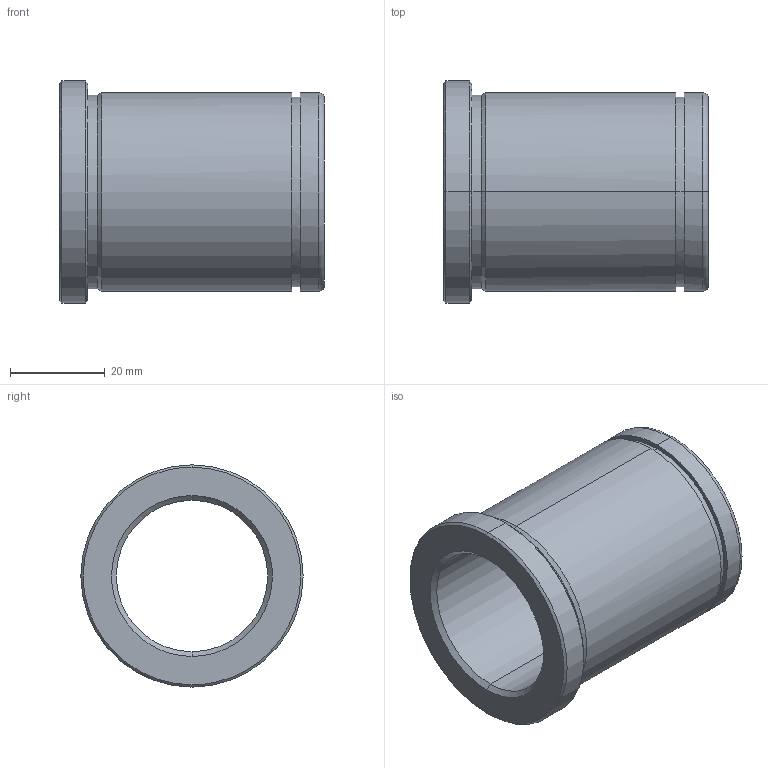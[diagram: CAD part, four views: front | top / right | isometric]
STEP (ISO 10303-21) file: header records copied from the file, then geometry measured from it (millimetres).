
FILE_DESCRIPTION(('CATIA V5 STEP Exchange'),'2;1');
FILE_NAME('C:\Users\Utente\Desktop\IO LAVORO\3D X SITO CF\X SITO\PLASTICA\553\553-32X56.stp','2021-05-26T18:46:05+00:00',('none'),('none'),'CATIA Version 5 Release 20 GA (IN-10)','CATIA V5 STEP AP203','none');
FILE_SCHEMA(('CONFIG_CONTROL_DESIGN'));
Length unit declared in the file: millimetre
Products named in the file (1): 553-32X56
Bounding box: 56 x 47 x 47 mm (x, y, z)
Volume: 33979.1 mm3; surface area: 14977 mm2
Topology: 1 solids, 1 shells, 29 faces, 92 edges, 68 vertices
Faces by surface type: cylinder 12, cone 8, plane 5, torus 4
Entity records: 1228 total; most frequent: CARTESIAN_POINT 378, ORIENTED_EDGE 184, DIRECTION 134, EDGE_CURVE 92, AXIS2_PLACEMENT_3D 86, VERTEX_POINT 68, CIRCLE 56, EDGE_LOOP 34
